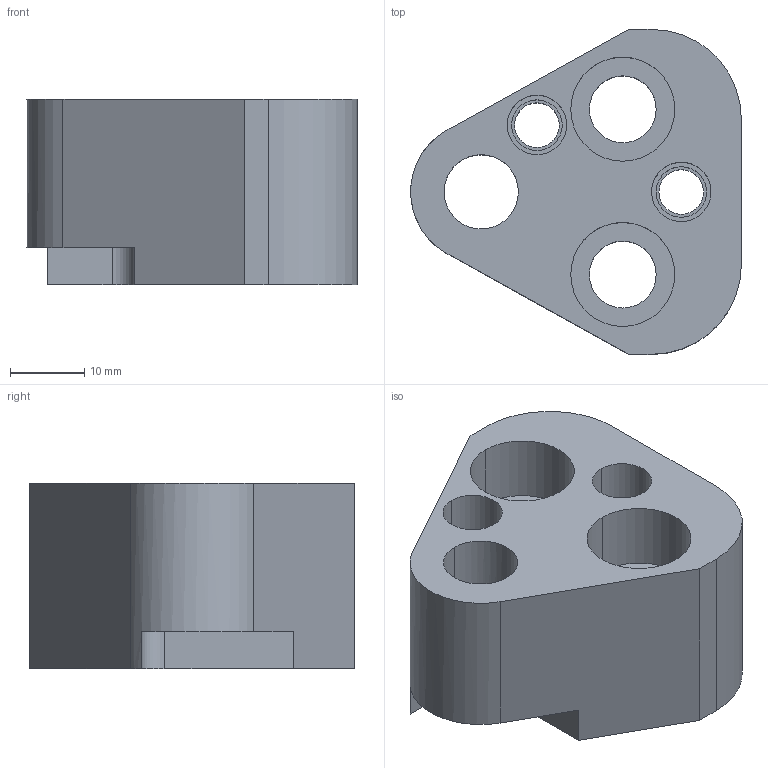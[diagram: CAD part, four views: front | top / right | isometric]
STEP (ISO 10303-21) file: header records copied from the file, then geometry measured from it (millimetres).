
FILE_DESCRIPTION(/* description */ (''),/* implementation_level */ '2;1');
FILE_NAME(/* name */ '3d_25crn-f10_03141_r00.stp',/* time_stamp */ '2011-01-10T14:17:54+09:00',/* author */ ('MISUMI'),/* organization */ (''),/* preprocessor_version */ 'ST-DEVELOPER v11',/* originating_system */ 'UGS - NX 5.0',/* authorisation */ '');
FILE_SCHEMA (('CONFIG_CONTROL_DESIGN'));
Length unit declared in the file: millimetre
Products named in the file (1): 3d_25crn-f10_03141_r00
Bounding box: 44.49 x 43.7 x 25 mm (x, y, z)
Volume: 25363.1 mm3; surface area: 9212 mm2
Topology: 1 solids, 1 shells, 44 faces, 110 edges, 73 vertices
Faces by surface type: cylinder 26, plane 16, cone 2
Entity records: 1451 total; most frequent: DIRECTION 255, CARTESIAN_POINT 233, ORIENTED_EDGE 220, EDGE_CURVE 110, AXIS2_PLACEMENT_3D 101, VERTEX_POINT 73, EDGE_LOOP 59, CIRCLE 56
